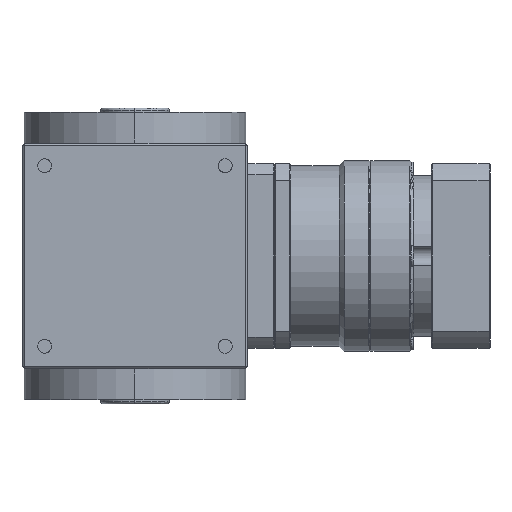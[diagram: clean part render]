
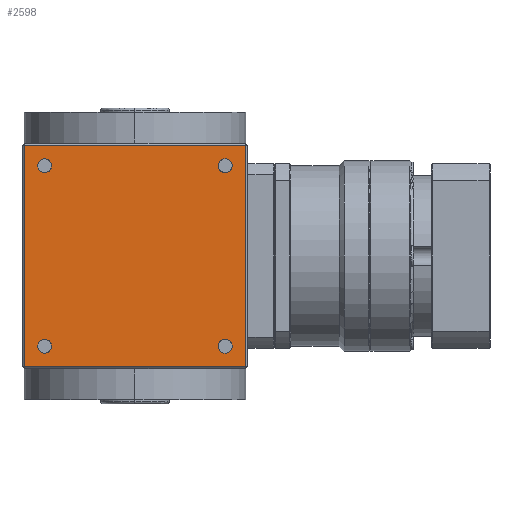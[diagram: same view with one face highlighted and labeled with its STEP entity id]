
A CAD part, left-side view. The second image highlights one B-rep face of the part: STEP entity #2598.
In plain terms, the highlighted planar face has unit normal (-1, 0, 0).
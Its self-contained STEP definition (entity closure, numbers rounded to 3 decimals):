
#257 = CIRCLE ( 'NONE', #28534, 3.4 ) ;
#456 = AXIS2_PLACEMENT_3D ( 'NONE', #24180, #3244, #6246 ) ;
#945 = VERTEX_POINT ( 'NONE', #1319 ) ;
#1002 = DIRECTION ( 'NONE',  ( 0., 0., 1. ) ) ;
#1073 = EDGE_CURVE ( 'NONE', #29823, #28391, #5355, .T. ) ;
#1319 = CARTESIAN_POINT ( 'NONE',  ( -55., -44., 40.6 ) ) ;
#1443 = ORIENTED_EDGE ( 'NONE', *, *, #1073, .T. ) ;
#1516 = CIRCLE ( 'NONE', #37554, 3.4 ) ;
#2598 = ADVANCED_FACE ( 'NONE', ( #17058, #16270, #14067, #34803, #28945 ), #29132, .T. ) ;
#3138 = EDGE_LOOP ( 'NONE', ( #28344, #11703, #4772, #26823 ) ) ;
#3244 = DIRECTION ( 'NONE',  ( 1., 0., 0. ) ) ;
#4076 = VERTEX_POINT ( 'NONE', #15415 ) ;
#4772 = ORIENTED_EDGE ( 'NONE', *, *, #33507, .T. ) ;
#5355 = CIRCLE ( 'NONE', #6642, 3.4 ) ;
#5685 = CIRCLE ( 'NONE', #28195, 3.4 ) ;
#5752 = DIRECTION ( 'NONE',  ( 0., 0., 1. ) ) ;
#6246 = DIRECTION ( 'NONE',  ( 0., 0., 1. ) ) ;
#6317 = VERTEX_POINT ( 'NONE', #38357 ) ;
#6344 = DIRECTION ( 'NONE',  ( 1., 0., 0. ) ) ;
#6531 = CARTESIAN_POINT ( 'NONE',  ( -55., 44., 44. ) ) ;
#6642 = AXIS2_PLACEMENT_3D ( 'NONE', #17433, #36561, #24261 ) ;
#6668 = EDGE_CURVE ( 'NONE', #13207, #945, #5685, .T. ) ;
#9342 = CIRCLE ( 'NONE', #15757, 3.4 ) ;
#9384 = VECTOR ( 'NONE', #32382, 1000. ) ;
#9579 = DIRECTION ( 'NONE',  ( 0., 0., 1. ) ) ;
#10247 = VERTEX_POINT ( 'NONE', #19204 ) ;
#10868 = LINE ( 'NONE', #20107, #9384 ) ;
#10964 = DIRECTION ( 'NONE',  ( 0., 0., 1. ) ) ;
#11170 = CARTESIAN_POINT ( 'NONE',  ( -55., -44., -47.4 ) ) ;
#11213 = EDGE_LOOP ( 'NONE', ( #29022, #14105 ) ) ;
#11703 = ORIENTED_EDGE ( 'NONE', *, *, #12155, .T. ) ;
#12155 = EDGE_CURVE ( 'NONE', #14216, #20790, #30604, .T. ) ;
#12395 = CARTESIAN_POINT ( 'NONE',  ( -55., -54., 54. ) ) ;
#13207 = VERTEX_POINT ( 'NONE', #35023 ) ;
#13776 = CARTESIAN_POINT ( 'NONE',  ( -55., -44., -44. ) ) ;
#14067 = FACE_BOUND ( 'NONE', #11213, .T. ) ;
#14105 = ORIENTED_EDGE ( 'NONE', *, *, #33167, .T. ) ;
#14187 = LINE ( 'NONE', #38324, #36270 ) ;
#14189 = EDGE_CURVE ( 'NONE', #28391, #29823, #9342, .T. ) ;
#14216 = VERTEX_POINT ( 'NONE', #12395 ) ;
#14712 = DIRECTION ( 'NONE',  ( 0., 0., -1. ) ) ;
#14985 = VERTEX_POINT ( 'NONE', #27016 ) ;
#15415 = CARTESIAN_POINT ( 'NONE',  ( -55., 44., -40.6 ) ) ;
#15738 = DIRECTION ( 'NONE',  ( 1., 0., 0. ) ) ;
#15757 = AXIS2_PLACEMENT_3D ( 'NONE', #6531, #24839, #5752 ) ;
#15791 = CARTESIAN_POINT ( 'NONE',  ( -55., 44., -44. ) ) ;
#16270 = FACE_BOUND ( 'NONE', #22256, .T. ) ;
#16671 = DIRECTION ( 'NONE',  ( 0., 0., 1. ) ) ;
#16883 = ORIENTED_EDGE ( 'NONE', *, *, #14189, .T. ) ;
#16962 = CARTESIAN_POINT ( 'NONE',  ( -55., -44., 44. ) ) ;
#16974 = DIRECTION ( 'NONE',  ( 1., 0., 0. ) ) ;
#17058 = FACE_OUTER_BOUND ( 'NONE', #3138, .T. ) ;
#17332 = EDGE_CURVE ( 'NONE', #945, #13207, #34551, .T. ) ;
#17433 = CARTESIAN_POINT ( 'NONE',  ( -55., 44., 44. ) ) ;
#18079 = AXIS2_PLACEMENT_3D ( 'NONE', #18757, #15738, #1002 ) ;
#18757 = CARTESIAN_POINT ( 'NONE',  ( -55., 44., -44. ) ) ;
#18906 = VERTEX_POINT ( 'NONE', #34381 ) ;
#19204 = CARTESIAN_POINT ( 'NONE',  ( -55., 44., -47.4 ) ) ;
#20107 = CARTESIAN_POINT ( 'NONE',  ( -55., 55., -54. ) ) ;
#20183 = DIRECTION ( 'NONE',  ( 1., 0., 0. ) ) ;
#20742 = LINE ( 'NONE', #27372, #32856 ) ;
#20777 = EDGE_CURVE ( 'NONE', #4076, #10247, #257, .T. ) ;
#20789 = EDGE_CURVE ( 'NONE', #18906, #14216, #14187, .T. ) ;
#20790 = VERTEX_POINT ( 'NONE', #23231 ) ;
#20905 = EDGE_CURVE ( 'NONE', #31827, #6317, #1516, .T. ) ;
#20908 = AXIS2_PLACEMENT_3D ( 'NONE', #24664, #6344, #9579 ) ;
#22256 = EDGE_LOOP ( 'NONE', ( #26302, #27897 ) ) ;
#22493 = EDGE_CURVE ( 'NONE', #14985, #18906, #10868, .T. ) ;
#23231 = CARTESIAN_POINT ( 'NONE',  ( -55., 54., 54. ) ) ;
#23700 = ORIENTED_EDGE ( 'NONE', *, *, #20905, .T. ) ;
#24180 = CARTESIAN_POINT ( 'NONE',  ( -55., -44., 44. ) ) ;
#24261 = DIRECTION ( 'NONE',  ( 0., 0., 1. ) ) ;
#24664 = CARTESIAN_POINT ( 'NONE',  ( -55., -44., -44. ) ) ;
#24706 = CARTESIAN_POINT ( 'NONE',  ( -55., 44., 40.6 ) ) ;
#24839 = DIRECTION ( 'NONE',  ( 1., 0., 0. ) ) ;
#25695 = EDGE_LOOP ( 'NONE', ( #16883, #1443 ) ) ;
#26023 = DIRECTION ( 'NONE',  ( 0., 0., 1. ) ) ;
#26302 = ORIENTED_EDGE ( 'NONE', *, *, #6668, .T. ) ;
#26695 = ORIENTED_EDGE ( 'NONE', *, *, #38851, .T. ) ;
#26823 = ORIENTED_EDGE ( 'NONE', *, *, #22493, .T. ) ;
#27016 = CARTESIAN_POINT ( 'NONE',  ( -55., 54., -54. ) ) ;
#27372 = CARTESIAN_POINT ( 'NONE',  ( -55., 54., -55. ) ) ;
#27897 = ORIENTED_EDGE ( 'NONE', *, *, #17332, .T. ) ;
#28195 = AXIS2_PLACEMENT_3D ( 'NONE', #16962, #20183, #32665 ) ;
#28344 = ORIENTED_EDGE ( 'NONE', *, *, #20789, .T. ) ;
#28391 = VERTEX_POINT ( 'NONE', #36200 ) ;
#28534 = AXIS2_PLACEMENT_3D ( 'NONE', #15791, #37348, #31272 ) ;
#28776 = EDGE_LOOP ( 'NONE', ( #26695, #23700 ) ) ;
#28945 = FACE_BOUND ( 'NONE', #25695, .T. ) ;
#29022 = ORIENTED_EDGE ( 'NONE', *, *, #20777, .T. ) ;
#29132 = PLANE ( 'NONE',  #33407 ) ;
#29823 = VERTEX_POINT ( 'NONE', #24706 ) ;
#30604 = LINE ( 'NONE', #30812, #34879 ) ;
#30812 = CARTESIAN_POINT ( 'NONE',  ( -55., 55., 54. ) ) ;
#31196 = DIRECTION ( 'NONE',  ( 0., 1., 0. ) ) ;
#31272 = DIRECTION ( 'NONE',  ( 0., 0., 1. ) ) ;
#31827 = VERTEX_POINT ( 'NONE', #11170 ) ;
#32382 = DIRECTION ( 'NONE',  ( 0., -1., 0. ) ) ;
#32665 = DIRECTION ( 'NONE',  ( 0., 0., 1. ) ) ;
#32856 = VECTOR ( 'NONE', #14712, 1000. ) ;
#33167 = EDGE_CURVE ( 'NONE', #10247, #4076, #34124, .T. ) ;
#33407 = AXIS2_PLACEMENT_3D ( 'NONE', #38213, #38617, #16671 ) ;
#33507 = EDGE_CURVE ( 'NONE', #20790, #14985, #20742, .T. ) ;
#34124 = CIRCLE ( 'NONE', #18079, 3.4 ) ;
#34381 = CARTESIAN_POINT ( 'NONE',  ( -55., -54., -54. ) ) ;
#34551 = CIRCLE ( 'NONE', #456, 3.4 ) ;
#34803 = FACE_BOUND ( 'NONE', #28776, .T. ) ;
#34879 = VECTOR ( 'NONE', #31196, 1000. ) ;
#35023 = CARTESIAN_POINT ( 'NONE',  ( -55., -44., 47.4 ) ) ;
#36200 = CARTESIAN_POINT ( 'NONE',  ( -55., 44., 47.4 ) ) ;
#36270 = VECTOR ( 'NONE', #10964, 1000. ) ;
#36320 = CIRCLE ( 'NONE', #20908, 3.4 ) ;
#36561 = DIRECTION ( 'NONE',  ( 1., 0., 0. ) ) ;
#37348 = DIRECTION ( 'NONE',  ( 1., 0., 0. ) ) ;
#37554 = AXIS2_PLACEMENT_3D ( 'NONE', #13776, #16974, #26023 ) ;
#38213 = CARTESIAN_POINT ( 'NONE',  ( -55., 55., -55. ) ) ;
#38324 = CARTESIAN_POINT ( 'NONE',  ( -55., -54., -55. ) ) ;
#38357 = CARTESIAN_POINT ( 'NONE',  ( -55., -44., -40.6 ) ) ;
#38617 = DIRECTION ( 'NONE',  ( -1., 0., 0. ) ) ;
#38851 = EDGE_CURVE ( 'NONE', #6317, #31827, #36320, .T. ) ;
